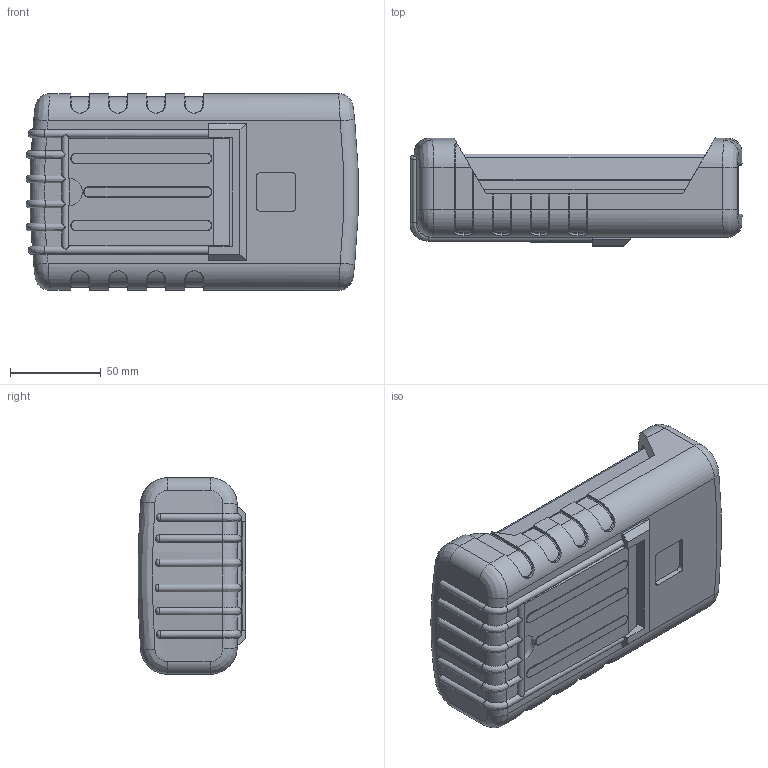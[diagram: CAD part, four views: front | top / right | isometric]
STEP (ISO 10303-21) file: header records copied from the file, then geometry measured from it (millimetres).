
FILE_DESCRIPTION (( 'STEP AP214' ), '1' );
FILE_NAME ('90-43-3A-E-F-BO.STEP', '2020-10-04T16:57:43', ( 'Rudy' ), ( '' ), 'SwSTEP 2.0', 'SolidWorks 2014', '' );
FILE_SCHEMA (( 'AUTOMOTIVE_DESIGN' ));
Length unit declared in the file: millimetre
Products named in the file (9): 90-3AA; 90-43-3A-E-F-BO; 90 RBE Boot; RE 90 stand; 90 PCB 3AA; 3AAdoor; 90 expander; 90-Top Flush
Assembly tree (8 placements, depth 3):
  90-43-3A-E-F-BO
    90-3AA
    90-Top Flush
    90 expander
    3AAdoor
    90 PCB 3AA
    90 RBE Boot
      90 RBE Boot
      RE 90 stand
Bounding box: 183.26 x 59.56 x 108.46 mm (x, y, z)
Volume: 416873 mm3; surface area: 217079 mm2
Topology: 7 solids, 7 shells, 1180 faces, 3178 edges, 2032 vertices
Faces by surface type: plane 680, cylinder 300, bspline 76, torus 57, cone 52, sphere 15
Entity records: 43658 total; most frequent: CARTESIAN_POINT 14172, ORIENTED_EDGE 6312, DIRECTION 5812, EDGE_CURVE 3156, VECTOR 2070, LINE 2070, VERTEX_POINT 2024, AXIS2_PLACEMENT_3D 1871
